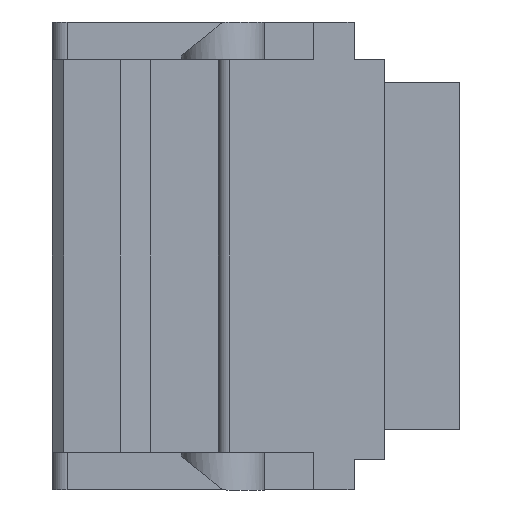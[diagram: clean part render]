
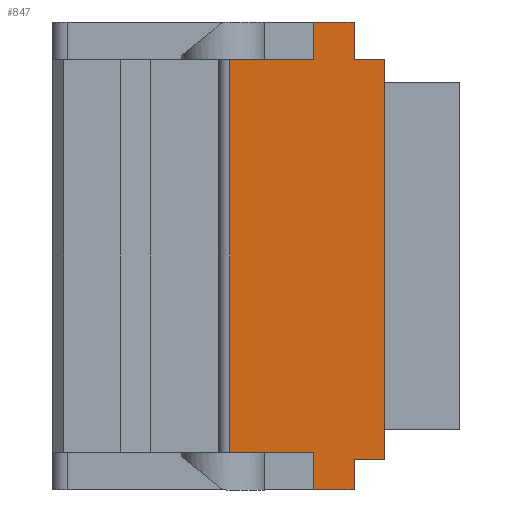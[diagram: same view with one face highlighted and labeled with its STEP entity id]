
A CAD part, left-side view. The second image highlights one B-rep face of the part: STEP entity #847.
In plain terms, the highlighted planar face has unit normal (-1, 0, 0).
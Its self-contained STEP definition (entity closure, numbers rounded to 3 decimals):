
#110 = DIRECTION ( 'NONE',  ( 0., -1., 0. ) ) ;
#180 = ORIENTED_EDGE ( 'NONE', *, *, #3889, .T. ) ;
#290 = LINE ( 'NONE', #1173, #2995 ) ;
#295 = LINE ( 'NONE', #3111, #2318 ) ;
#318 = CARTESIAN_POINT ( 'NONE',  ( -8.09, -3.181, 5.7 ) ) ;
#421 = VECTOR ( 'NONE', #110, 1000. ) ;
#430 = VERTEX_POINT ( 'NONE', #3839 ) ;
#565 = DIRECTION ( 'NONE',  ( 0., 0., -1. ) ) ;
#592 = CARTESIAN_POINT ( 'NONE',  ( -8.09, -1.531, 5.7 ) ) ;
#595 = ORIENTED_EDGE ( 'NONE', *, *, #773, .F. ) ;
#599 = ORIENTED_EDGE ( 'NONE', *, *, #1045, .F. ) ;
#616 = EDGE_CURVE ( 'NONE', #1190, #1305, #3832, .T. ) ;
#639 = DIRECTION ( 'NONE',  ( 0., 0., 1. ) ) ;
#714 = DIRECTION ( 'NONE',  ( 0., 0., -1. ) ) ;
#718 = CARTESIAN_POINT ( 'NONE',  ( -8.09, -3.181, 0.4 ) ) ;
#773 = EDGE_CURVE ( 'NONE', #3314, #2669, #2748, .T. ) ;
#835 = VERTEX_POINT ( 'NONE', #3394 ) ;
#840 = EDGE_CURVE ( 'NONE', #1190, #3314, #3392, .T. ) ;
#847 = ADVANCED_FACE ( 'NONE', ( #2794 ), #3379, .F. ) ;
#849 = CARTESIAN_POINT ( 'NONE',  ( -8.09, -2.641, 6.2 ) ) ;
#936 = VECTOR ( 'NONE', #1814, 1000. ) ;
#960 = DIRECTION ( 'NONE',  ( 0., 0., -1. ) ) ;
#998 = LINE ( 'NONE', #718, #421 ) ;
#1009 = DIRECTION ( 'NONE',  ( 0., 1., 0. ) ) ;
#1045 = EDGE_CURVE ( 'NONE', #2931, #2150, #1711, .T. ) ;
#1119 = ORIENTED_EDGE ( 'NONE', *, *, #2140, .T. ) ;
#1134 = EDGE_CURVE ( 'NONE', #3178, #2150, #1616, .T. ) ;
#1153 = ORIENTED_EDGE ( 'NONE', *, *, #3262, .T. ) ;
#1173 = CARTESIAN_POINT ( 'NONE',  ( -8.09, -2.641, 5.7 ) ) ;
#1175 = CARTESIAN_POINT ( 'NONE',  ( -8.09, -3.181, 0. ) ) ;
#1190 = VERTEX_POINT ( 'NONE', #3680 ) ;
#1250 = VECTOR ( 'NONE', #639, 1000. ) ;
#1305 = VERTEX_POINT ( 'NONE', #1478 ) ;
#1309 = CARTESIAN_POINT ( 'NONE',  ( -8.09, -3.581, 0.4 ) ) ;
#1365 = EDGE_CURVE ( 'NONE', #2035, #2769, #295, .T. ) ;
#1473 = VECTOR ( 'NONE', #714, 1000. ) ;
#1478 = CARTESIAN_POINT ( 'NONE',  ( -8.09, -2.641, 5.7 ) ) ;
#1490 = ORIENTED_EDGE ( 'NONE', *, *, #1365, .T. ) ;
#1517 = CARTESIAN_POINT ( 'NONE',  ( -8.09, -3.181, 0.4 ) ) ;
#1558 = VERTEX_POINT ( 'NONE', #3066 ) ;
#1598 = ORIENTED_EDGE ( 'NONE', *, *, #1680, .F. ) ;
#1616 = LINE ( 'NONE', #2580, #3099 ) ;
#1652 = ORIENTED_EDGE ( 'NONE', *, *, #1134, .T. ) ;
#1658 = DIRECTION ( 'NONE',  ( 0., -1., 0. ) ) ;
#1666 = VECTOR ( 'NONE', #2058, 1000. ) ;
#1680 = EDGE_CURVE ( 'NONE', #835, #2769, #2012, .T. ) ;
#1710 = CARTESIAN_POINT ( 'NONE',  ( -8.09, -3.181, 6.2 ) ) ;
#1711 = LINE ( 'NONE', #2492, #3437 ) ;
#1803 = DIRECTION ( 'NONE',  ( 0., 1., 0. ) ) ;
#1814 = DIRECTION ( 'NONE',  ( 0., -1., 0. ) ) ;
#1848 = DIRECTION ( 'NONE',  ( 0., 0., -1. ) ) ;
#1910 = LINE ( 'NONE', #849, #3640 ) ;
#1931 = ORIENTED_EDGE ( 'NONE', *, *, #3267, .T. ) ;
#1980 = CARTESIAN_POINT ( 'NONE',  ( -8.09, -3.181, 6.2 ) ) ;
#2006 = ORIENTED_EDGE ( 'NONE', *, *, #3012, .T. ) ;
#2012 = LINE ( 'NONE', #2758, #2400 ) ;
#2035 = VERTEX_POINT ( 'NONE', #592 ) ;
#2058 = DIRECTION ( 'NONE',  ( 0., 0., -1. ) ) ;
#2140 = EDGE_CURVE ( 'NONE', #1305, #2035, #290, .T. ) ;
#2150 = VERTEX_POINT ( 'NONE', #1175 ) ;
#2277 = CARTESIAN_POINT ( 'NONE',  ( -8.09, -3.181, 5.7 ) ) ;
#2318 = VECTOR ( 'NONE', #1848, 1000. ) ;
#2329 = AXIS2_PLACEMENT_3D ( 'NONE', #3962, #3975, #2402 ) ;
#2400 = VECTOR ( 'NONE', #1803, 1000. ) ;
#2402 = DIRECTION ( 'NONE',  ( 0., 1., 0. ) ) ;
#2492 = CARTESIAN_POINT ( 'NONE',  ( -8.09, -3.181, 6.2 ) ) ;
#2580 = CARTESIAN_POINT ( 'NONE',  ( -8.09, -3.181, 0. ) ) ;
#2588 = LINE ( 'NONE', #1309, #1250 ) ;
#2669 = VERTEX_POINT ( 'NONE', #318 ) ;
#2748 = LINE ( 'NONE', #1710, #1666 ) ;
#2758 = CARTESIAN_POINT ( 'NONE',  ( -8.09, -2.641, 0.5 ) ) ;
#2769 = VERTEX_POINT ( 'NONE', #3603 ) ;
#2794 = FACE_OUTER_BOUND ( 'NONE', #3527, .T. ) ;
#2915 = VECTOR ( 'NONE', #1009, 1000. ) ;
#2931 = VERTEX_POINT ( 'NONE', #1517 ) ;
#2995 = VECTOR ( 'NONE', #3723, 1000. ) ;
#3012 = EDGE_CURVE ( 'NONE', #430, #1558, #2588, .T. ) ;
#3066 = CARTESIAN_POINT ( 'NONE',  ( -8.09, -3.581, 5.7 ) ) ;
#3099 = VECTOR ( 'NONE', #1658, 1000. ) ;
#3111 = CARTESIAN_POINT ( 'NONE',  ( -8.09, -1.531, 5.7 ) ) ;
#3178 = VERTEX_POINT ( 'NONE', #3849 ) ;
#3262 = EDGE_CURVE ( 'NONE', #1558, #2669, #3931, .T. ) ;
#3267 = EDGE_CURVE ( 'NONE', #2931, #430, #998, .T. ) ;
#3314 = VERTEX_POINT ( 'NONE', #1980 ) ;
#3379 = PLANE ( 'NONE',  #2329 ) ;
#3392 = LINE ( 'NONE', #3405, #936 ) ;
#3394 = CARTESIAN_POINT ( 'NONE',  ( -8.09, -2.641, 0.5 ) ) ;
#3405 = CARTESIAN_POINT ( 'NONE',  ( -8.09, -3.181, 6.2 ) ) ;
#3437 = VECTOR ( 'NONE', #960, 1000. ) ;
#3500 = CARTESIAN_POINT ( 'NONE',  ( -8.09, -2.641, 6.2 ) ) ;
#3527 = EDGE_LOOP ( 'NONE', ( #2006, #1153, #595, #3754, #3605, #1119, #1490, #1598, #180, #1652, #599, #1931 ) ) ;
#3603 = CARTESIAN_POINT ( 'NONE',  ( -8.09, -1.531, 0.5 ) ) ;
#3605 = ORIENTED_EDGE ( 'NONE', *, *, #616, .T. ) ;
#3640 = VECTOR ( 'NONE', #565, 1000. ) ;
#3680 = CARTESIAN_POINT ( 'NONE',  ( -8.09, -2.641, 6.2 ) ) ;
#3723 = DIRECTION ( 'NONE',  ( 0., 1., 0. ) ) ;
#3754 = ORIENTED_EDGE ( 'NONE', *, *, #840, .F. ) ;
#3832 = LINE ( 'NONE', #3500, #1473 ) ;
#3839 = CARTESIAN_POINT ( 'NONE',  ( -8.09, -3.581, 0.4 ) ) ;
#3849 = CARTESIAN_POINT ( 'NONE',  ( -8.09, -2.641, 0. ) ) ;
#3889 = EDGE_CURVE ( 'NONE', #835, #3178, #1910, .T. ) ;
#3931 = LINE ( 'NONE', #2277, #2915 ) ;
#3962 = CARTESIAN_POINT ( 'NONE',  ( -8.09, -3.181, 6.2 ) ) ;
#3975 = DIRECTION ( 'NONE',  ( 1., 0., 0. ) ) ;
